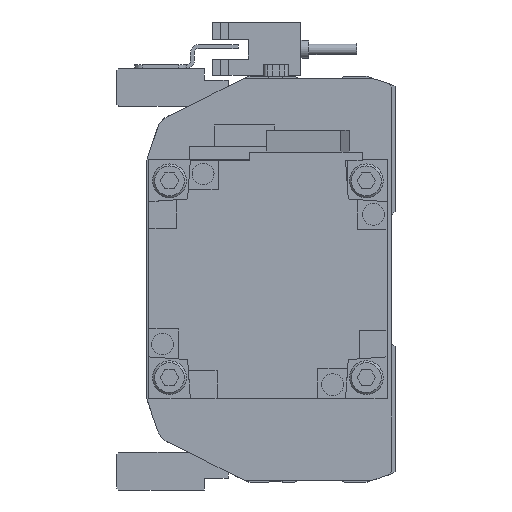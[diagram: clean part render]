
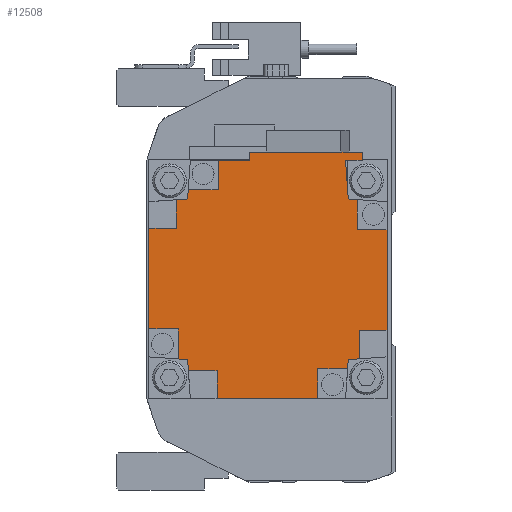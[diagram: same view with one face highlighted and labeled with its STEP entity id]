
A CAD part, left-side view. The second image highlights one B-rep face of the part: STEP entity #12508.
In plain terms, the highlighted planar face has unit normal (-1, 0, 0) as drawn and (0, 1, 0) by its records, which use the part's own axes.
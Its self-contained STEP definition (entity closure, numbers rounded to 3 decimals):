
#223=PLANE('',#13373);
#768=LINE('',#18576,#2021);
#785=LINE('',#18612,#2038);
#787=LINE('',#18616,#2040);
#788=LINE('',#18619,#2041);
#789=LINE('',#18621,#2042);
#790=LINE('',#18623,#2043);
#791=LINE('',#18625,#2044);
#792=LINE('',#18627,#2045);
#793=LINE('',#18629,#2046);
#794=LINE('',#18631,#2047);
#795=LINE('',#18633,#2048);
#796=LINE('',#18635,#2049);
#797=LINE('',#18637,#2050);
#798=LINE('',#18639,#2051);
#799=LINE('',#18641,#2052);
#800=LINE('',#18643,#2053);
#801=LINE('',#18645,#2054);
#802=LINE('',#18647,#2055);
#803=LINE('',#18649,#2056);
#804=LINE('',#18651,#2057);
#805=LINE('',#18653,#2058);
#806=LINE('',#18655,#2059);
#807=LINE('',#18657,#2060);
#808=LINE('',#18659,#2061);
#809=LINE('',#18661,#2062);
#810=LINE('',#18662,#2063);
#811=LINE('',#18663,#2064);
#812=LINE('',#18665,#2065);
#813=LINE('',#18667,#2066);
#814=LINE('',#18669,#2067);
#2021=VECTOR('',#14826,1000.);
#2038=VECTOR('',#14845,1000.);
#2040=VECTOR('',#14849,1000.);
#2041=VECTOR('',#14850,1000.);
#2042=VECTOR('',#14851,1000.);
#2043=VECTOR('',#14852,1000.);
#2044=VECTOR('',#14853,1000.);
#2045=VECTOR('',#14854,1000.);
#2046=VECTOR('',#14855,1000.);
#2047=VECTOR('',#14856,1000.);
#2048=VECTOR('',#14857,1000.);
#2049=VECTOR('',#14858,1000.);
#2050=VECTOR('',#14859,1000.);
#2051=VECTOR('',#14860,1000.);
#2052=VECTOR('',#14861,1000.);
#2053=VECTOR('',#14862,1000.);
#2054=VECTOR('',#14863,1000.);
#2055=VECTOR('',#14864,1000.);
#2056=VECTOR('',#14865,1000.);
#2057=VECTOR('',#14866,1000.);
#2058=VECTOR('',#14867,1000.);
#2059=VECTOR('',#14868,1000.);
#2060=VECTOR('',#14869,1000.);
#2061=VECTOR('',#14870,1000.);
#2062=VECTOR('',#14871,1000.);
#2063=VECTOR('',#14872,1000.);
#2064=VECTOR('',#14873,1000.);
#2065=VECTOR('',#14874,1000.);
#2066=VECTOR('',#14875,1000.);
#2067=VECTOR('',#14876,1000.);
#3475=ORIENTED_EDGE('',*,*,#6955,.T.);
#3476=ORIENTED_EDGE('',*,*,#6956,.T.);
#3477=ORIENTED_EDGE('',*,*,#6957,.T.);
#3478=ORIENTED_EDGE('',*,*,#6958,.T.);
#3479=ORIENTED_EDGE('',*,*,#6959,.T.);
#3480=ORIENTED_EDGE('',*,*,#6960,.F.);
#3481=ORIENTED_EDGE('',*,*,#6961,.F.);
#3482=ORIENTED_EDGE('',*,*,#6962,.T.);
#3483=ORIENTED_EDGE('',*,*,#6963,.T.);
#3484=ORIENTED_EDGE('',*,*,#6964,.T.);
#3485=ORIENTED_EDGE('',*,*,#6965,.T.);
#3486=ORIENTED_EDGE('',*,*,#6966,.T.);
#3487=ORIENTED_EDGE('',*,*,#6967,.F.);
#3488=ORIENTED_EDGE('',*,*,#6968,.F.);
#3489=ORIENTED_EDGE('',*,*,#6969,.T.);
#3490=ORIENTED_EDGE('',*,*,#6970,.T.);
#3491=ORIENTED_EDGE('',*,*,#6971,.T.);
#3492=ORIENTED_EDGE('',*,*,#6972,.T.);
#3493=ORIENTED_EDGE('',*,*,#6973,.T.);
#3494=ORIENTED_EDGE('',*,*,#6974,.F.);
#3495=ORIENTED_EDGE('',*,*,#6975,.F.);
#3496=ORIENTED_EDGE('',*,*,#6976,.T.);
#3497=ORIENTED_EDGE('',*,*,#6977,.F.);
#3498=ORIENTED_EDGE('',*,*,#6936,.F.);
#3499=ORIENTED_EDGE('',*,*,#6978,.T.);
#3500=ORIENTED_EDGE('',*,*,#6953,.T.);
#3501=ORIENTED_EDGE('',*,*,#6979,.T.);
#3502=ORIENTED_EDGE('',*,*,#6980,.T.);
#3503=ORIENTED_EDGE('',*,*,#6981,.F.);
#3504=ORIENTED_EDGE('',*,*,#6982,.F.);
#6936=EDGE_CURVE('',#8703,#8704,#768,.T.);
#6953=EDGE_CURVE('',#8721,#8720,#785,.T.);
#6955=EDGE_CURVE('',#8722,#8723,#787,.T.);
#6956=EDGE_CURVE('',#8723,#8724,#788,.T.);
#6957=EDGE_CURVE('',#8724,#8725,#789,.T.);
#6958=EDGE_CURVE('',#8725,#8726,#790,.T.);
#6959=EDGE_CURVE('',#8726,#8727,#791,.T.);
#6960=EDGE_CURVE('',#8728,#8727,#792,.T.);
#6961=EDGE_CURVE('',#8729,#8728,#793,.T.);
#6962=EDGE_CURVE('',#8729,#8730,#794,.T.);
#6963=EDGE_CURVE('',#8730,#8731,#795,.T.);
#6964=EDGE_CURVE('',#8731,#8732,#796,.T.);
#6965=EDGE_CURVE('',#8732,#8733,#797,.T.);
#6966=EDGE_CURVE('',#8733,#8734,#798,.T.);
#6967=EDGE_CURVE('',#8735,#8734,#799,.T.);
#6968=EDGE_CURVE('',#8736,#8735,#800,.T.);
#6969=EDGE_CURVE('',#8736,#8737,#801,.T.);
#6970=EDGE_CURVE('',#8737,#8738,#802,.T.);
#6971=EDGE_CURVE('',#8738,#8739,#803,.T.);
#6972=EDGE_CURVE('',#8739,#8740,#804,.T.);
#6973=EDGE_CURVE('',#8740,#8741,#805,.T.);
#6974=EDGE_CURVE('',#8742,#8741,#806,.T.);
#6975=EDGE_CURVE('',#8743,#8742,#807,.T.);
#6976=EDGE_CURVE('',#8743,#8744,#808,.T.);
#6977=EDGE_CURVE('',#8704,#8744,#809,.T.);
#6978=EDGE_CURVE('',#8703,#8721,#810,.T.);
#6979=EDGE_CURVE('',#8720,#8745,#811,.T.);
#6980=EDGE_CURVE('',#8745,#8746,#812,.T.);
#6981=EDGE_CURVE('',#8747,#8746,#813,.T.);
#6982=EDGE_CURVE('',#8722,#8747,#814,.T.);
#8703=VERTEX_POINT('',#18577);
#8704=VERTEX_POINT('',#18578);
#8720=VERTEX_POINT('',#18611);
#8721=VERTEX_POINT('',#18613);
#8722=VERTEX_POINT('',#18617);
#8723=VERTEX_POINT('',#18618);
#8724=VERTEX_POINT('',#18620);
#8725=VERTEX_POINT('',#18622);
#8726=VERTEX_POINT('',#18624);
#8727=VERTEX_POINT('',#18626);
#8728=VERTEX_POINT('',#18628);
#8729=VERTEX_POINT('',#18630);
#8730=VERTEX_POINT('',#18632);
#8731=VERTEX_POINT('',#18634);
#8732=VERTEX_POINT('',#18636);
#8733=VERTEX_POINT('',#18638);
#8734=VERTEX_POINT('',#18640);
#8735=VERTEX_POINT('',#18642);
#8736=VERTEX_POINT('',#18644);
#8737=VERTEX_POINT('',#18646);
#8738=VERTEX_POINT('',#18648);
#8739=VERTEX_POINT('',#18650);
#8740=VERTEX_POINT('',#18652);
#8741=VERTEX_POINT('',#18654);
#8742=VERTEX_POINT('',#18656);
#8743=VERTEX_POINT('',#18658);
#8744=VERTEX_POINT('',#18660);
#8745=VERTEX_POINT('',#18664);
#8746=VERTEX_POINT('',#18666);
#8747=VERTEX_POINT('',#18668);
#10382=EDGE_LOOP('',(#3475,#3476,#3477,#3478,#3479,#3480,#3481,#3482,#3483,
#3484,#3485,#3486,#3487,#3488,#3489,#3490,#3491,#3492,#3493,#3494,#3495,
#3496,#3497,#3498,#3499,#3500,#3501,#3502,#3503,#3504));
#11341=FACE_BOUND('',#10382,.T.);
#12508=ADVANCED_FACE('',(#11341),#223,.T.);
#13373=AXIS2_PLACEMENT_3D('',#18615,#14847,#14848);
#14826=DIRECTION('',(0.,0.,1.));
#14845=DIRECTION('',(0.,0.,-1.));
#14847=DIRECTION('',(0.,1.,0.));
#14848=DIRECTION('',(0.,0.,1.));
#14849=DIRECTION('',(-1.,0.,0.));
#14850=DIRECTION('',(0.,0.,-1.));
#14851=DIRECTION('',(-1.,0.,0.));
#14852=DIRECTION('',(0.,0.,1.));
#14853=DIRECTION('',(-1.,0.,0.));
#14854=DIRECTION('',(0.07,0.,-0.998));
#14855=DIRECTION('',(0.998,0.,-0.07));
#14856=DIRECTION('',(0.,0.,1.));
#14857=DIRECTION('',(-1.,0.,0.));
#14858=DIRECTION('',(0.,0.,1.));
#14859=DIRECTION('',(1.,0.,0.));
#14860=DIRECTION('',(0.,0.,1.));
#14861=DIRECTION('',(-0.998,0.,-0.07));
#14862=DIRECTION('',(-0.07,0.,-0.998));
#14863=DIRECTION('',(1.,0.,0.));
#14864=DIRECTION('',(0.,0.,1.));
#14865=DIRECTION('',(1.,0.,0.));
#14866=DIRECTION('',(0.,0.,-1.));
#14867=DIRECTION('',(1.,0.,0.));
#14868=DIRECTION('',(-0.07,0.,0.998));
#14869=DIRECTION('',(-0.998,0.,0.07));
#14870=DIRECTION('',(0.,0.,1.));
#14871=DIRECTION('',(-1.,0.,0.));
#14872=DIRECTION('',(-1.,0.,0.));
#14873=DIRECTION('',(-1.,0.,0.));
#14874=DIRECTION('',(0.,0.,-1.));
#14875=DIRECTION('',(0.998,0.,0.07));
#14876=DIRECTION('',(0.07,0.,0.998));
#18576=CARTESIAN_POINT('',(32.,130.7,-4.7));
#18577=CARTESIAN_POINT('',(32.,130.7,-4.7));
#18578=CARTESIAN_POINT('',(32.,130.7,23.7));
#18611=CARTESIAN_POINT('',(29.95,130.7,-12.5));
#18612=CARTESIAN_POINT('',(29.95,130.7,29.95));
#18613=CARTESIAN_POINT('',(29.95,130.7,-4.7));
#18615=CARTESIAN_POINT('',(0.,130.7,0.));
#18616=CARTESIAN_POINT('',(0.,130.7,-23.));
#18617=CARTESIAN_POINT('',(20.004,130.7,-23.));
#18618=CARTESIAN_POINT('',(12.8,130.7,-23.));
#18619=CARTESIAN_POINT('',(12.8,130.7,0.));
#18620=CARTESIAN_POINT('',(12.8,130.7,-29.95));
#18621=CARTESIAN_POINT('',(29.95,130.7,-29.95));
#18622=CARTESIAN_POINT('',(-12.5,130.7,-29.95));
#18623=CARTESIAN_POINT('',(-12.5,130.7,0.));
#18624=CARTESIAN_POINT('',(-12.5,130.7,-22.5));
#18625=CARTESIAN_POINT('',(0.,130.7,-22.5));
#18626=CARTESIAN_POINT('',(-20.039,130.7,-22.5));
#18627=CARTESIAN_POINT('',(-21.507,130.7,-1.504));
#18628=CARTESIAN_POINT('',(-20.2,130.7,-20.2));
#18629=CARTESIAN_POINT('',(-1.504,130.7,-21.507));
#18630=CARTESIAN_POINT('',(-23.,130.7,-20.004));
#18631=CARTESIAN_POINT('',(-23.,130.7,0.));
#18632=CARTESIAN_POINT('',(-23.,130.7,-12.8));
#18633=CARTESIAN_POINT('',(0.,130.7,-12.8));
#18634=CARTESIAN_POINT('',(-29.95,130.7,-12.8));
#18635=CARTESIAN_POINT('',(-29.95,130.7,-29.95));
#18636=CARTESIAN_POINT('',(-29.95,130.7,12.5));
#18637=CARTESIAN_POINT('',(0.,130.7,12.5));
#18638=CARTESIAN_POINT('',(-22.5,130.7,12.5));
#18639=CARTESIAN_POINT('',(-22.5,130.7,0.));
#18640=CARTESIAN_POINT('',(-22.5,130.7,20.039));
#18641=CARTESIAN_POINT('',(-1.504,130.7,21.507));
#18642=CARTESIAN_POINT('',(-20.2,130.7,20.2));
#18643=CARTESIAN_POINT('',(-21.507,130.7,1.504));
#18644=CARTESIAN_POINT('',(-20.004,130.7,23.));
#18645=CARTESIAN_POINT('',(0.,130.7,23.));
#18646=CARTESIAN_POINT('',(-12.8,130.7,23.));
#18647=CARTESIAN_POINT('',(-12.8,130.7,0.));
#18648=CARTESIAN_POINT('',(-12.8,130.7,29.95));
#18649=CARTESIAN_POINT('',(-29.95,130.7,29.95));
#18650=CARTESIAN_POINT('',(12.5,130.7,29.95));
#18651=CARTESIAN_POINT('',(12.5,130.7,0.));
#18652=CARTESIAN_POINT('',(12.5,130.7,22.5));
#18653=CARTESIAN_POINT('',(0.,130.7,22.5));
#18654=CARTESIAN_POINT('',(20.039,130.7,22.5));
#18655=CARTESIAN_POINT('',(21.507,130.7,1.504));
#18656=CARTESIAN_POINT('',(20.2,130.7,20.2));
#18657=CARTESIAN_POINT('',(1.504,130.7,21.507));
#18658=CARTESIAN_POINT('',(29.95,130.7,19.518));
#18659=CARTESIAN_POINT('',(29.95,130.7,-4.7));
#18660=CARTESIAN_POINT('',(29.95,130.7,23.7));
#18661=CARTESIAN_POINT('',(32.,130.7,23.7));
#18662=CARTESIAN_POINT('',(32.,130.7,-4.7));
#18663=CARTESIAN_POINT('',(0.,130.7,-12.5));
#18664=CARTESIAN_POINT('',(22.5,130.7,-12.5));
#18665=CARTESIAN_POINT('',(22.5,130.7,0.));
#18666=CARTESIAN_POINT('',(22.5,130.7,-20.039));
#18667=CARTESIAN_POINT('',(1.504,130.7,-21.507));
#18668=CARTESIAN_POINT('',(20.2,130.7,-20.2));
#18669=CARTESIAN_POINT('',(21.507,130.7,-1.504));
